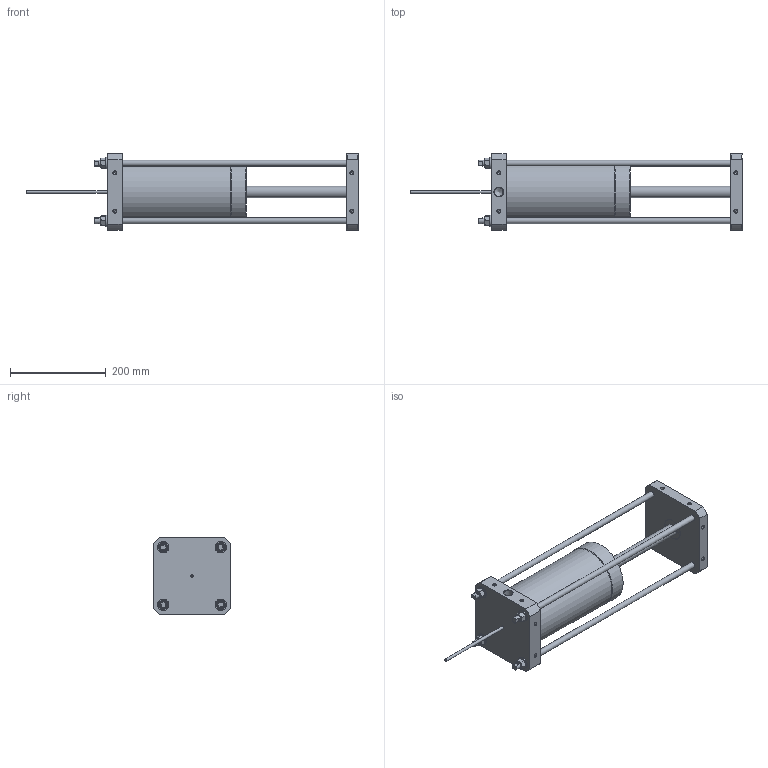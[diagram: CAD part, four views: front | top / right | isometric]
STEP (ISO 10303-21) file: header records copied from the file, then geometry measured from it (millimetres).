
FILE_DESCRIPTION(/* description */ (''),/* implementation_level */ '2;1');
FILE_NAME(/* name */ 'P13-1000.stp',/* time_stamp */ '2026-08-09T20:17:53+02:00',/* author */ ('janos'),/* organization */ (''),/* preprocessor_version */ 'ST-DEVELOPER v19.2',/* originating_system */ 'Autodesk Inventor 2024',/* authorisation */ '');
FILE_SCHEMA (('AUTOMOTIVE_DESIGN { 1 0 10303 214 3 1 1 }'));
Length unit declared in the file: millimetre
Products named in the file (1): 5.BG.120.160.1 Pneumatik Komponente_Vereinfachen_1
Bounding box: 692 x 160 x 160 mm (x, y, z)
Volume: 5024360.6 mm3; surface area: 344349.1 mm2
Topology: 1 solids, 1 shells, 208 faces, 512 edges, 322 vertices
Faces by surface type: plane 87, cone 71, cylinder 49, torus 1
Full cylindrical faces by diameter (mm): 6 x1, 6.647 x16, 12 x8, 13 x1, 14.376 x1, 18.631 x2, 24 x5, 45 x1, 128 x1, 130 x1
Entity records: 6286 total; most frequent: CARTESIAN_POINT 1247, DIRECTION 1018, ORIENTED_EDGE 990, EDGE_CURVE 495, AXIS2_PLACEMENT_3D 406, VERTEX_POINT 322, EDGE_LOOP 253, STYLED_ITEM 209
